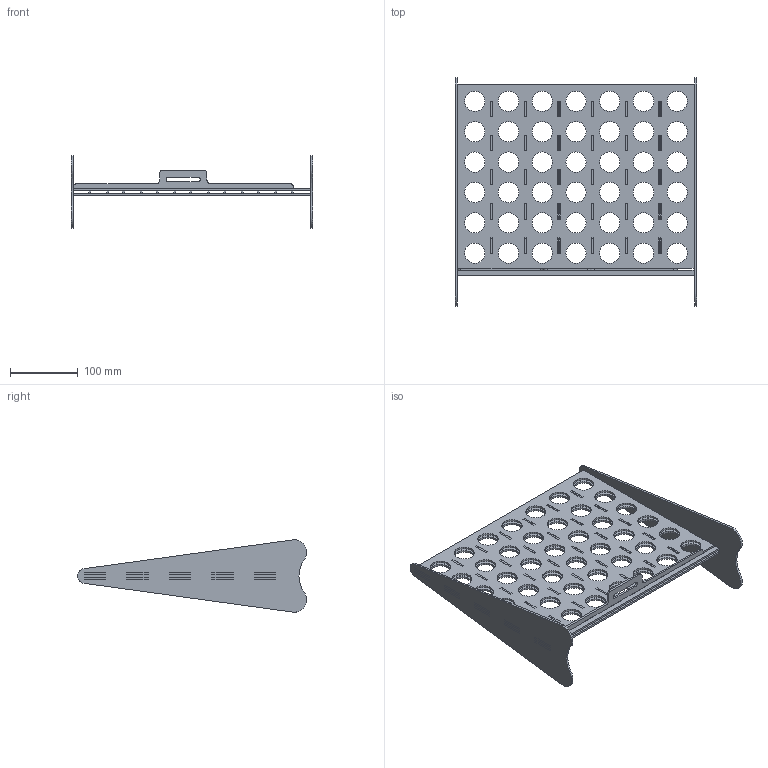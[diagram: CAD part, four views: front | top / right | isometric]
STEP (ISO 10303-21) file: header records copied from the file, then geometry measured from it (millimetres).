
FILE_DESCRIPTION (( 'STEP AP203' ), '1' );
FILE_NAME ('Assemblage1.STEP', '2020-03-25T09:17:46', ( '' ), ( '' ), 'SwSTEP 2.0', 'SolidWorks 2020', '' );
FILE_SCHEMA (( 'CONFIG_CONTROL_DESIGN' ));
Length unit declared in the file: millimetre
Products named in the file (5): tirette; grille; pied; paroi interne; Assemblage1
Assembly tree (11 placements, depth 2):
  Assemblage1
    grille  x2
    paroi interne  x6
    pied  x2
    tirette
Bounding box: 357.2 x 338.46 x 107.31 mm (x, y, z)
Volume: 554924.7 mm3; surface area: 446431.9 mm2
Topology: 11 solids, 11 shells, 972 faces, 2850 edges, 1900 vertices
Faces by surface type: plane 780, cylinder 192
Entity records: 14956 total; most frequent: CARTESIAN_POINT 2488, ORIENTED_EDGE 2466, DIRECTION 2301, EDGE_CURVE 1233, LINE 1031, VECTOR 1031, VERTEX_POINT 822, AXIS2_PLACEMENT_3D 635
